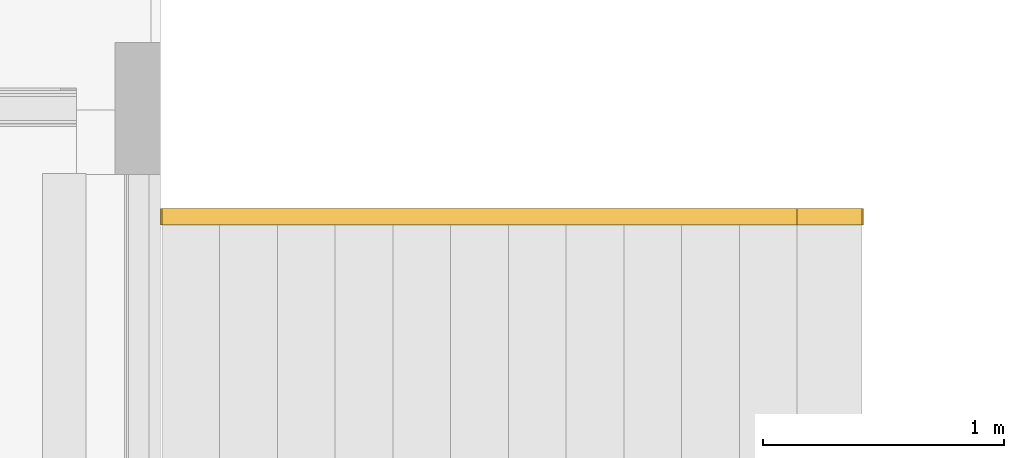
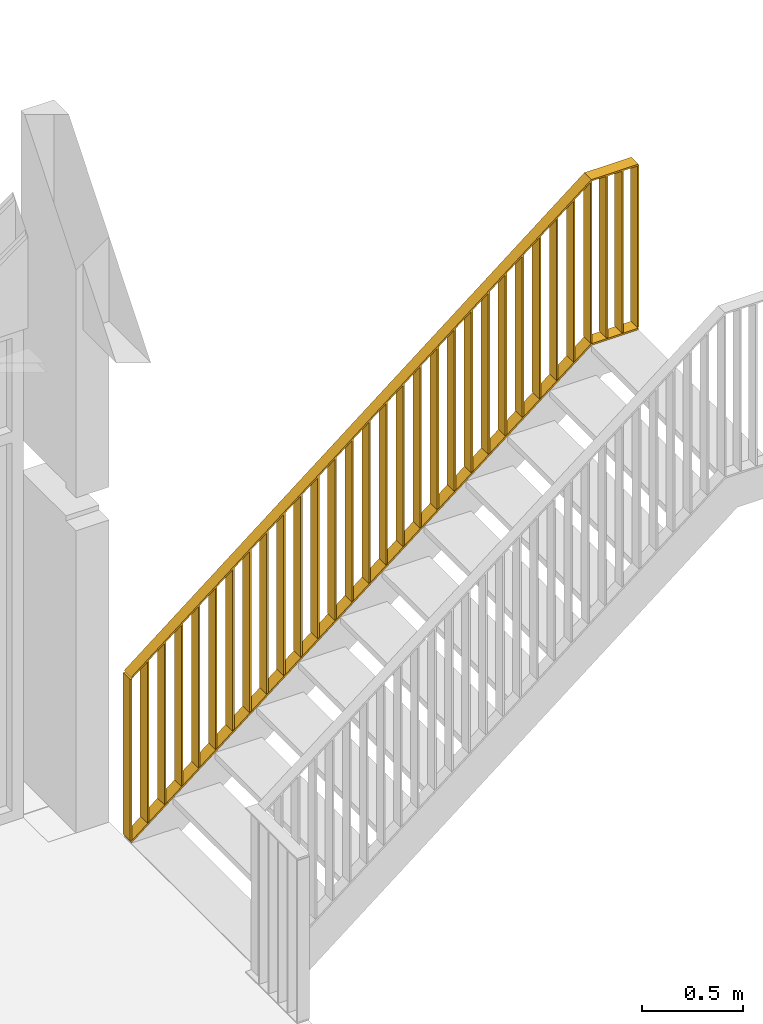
# One storey, part 86 of 94: 1 railing.
"""IFC2X3 building model written with IfcOpenShell, lengths in millimetres."""

from ifc_helpers import new_model, entity, si_unit, converted_unit, derived_unit, money_unit, direction, frame, origin_with_axes, place, context, subcontext, project, spatial, faceted_brep, material, material_list, type_object, element, save


model = new_model("IFC2X3")

# Units and contexts
model_context = context("Model", 3, precision=0.01, world=origin_with_axes(), true_north=direction((0.0, 1.0)))
body_context = subcontext(model_context, "Body", "Model", "MODEL_VIEW")
ifc_project = project(units=[si_unit("LENGTHUNIT", "METRE", prefix="MILLI"), si_unit("AREAUNIT", "SQUARE_METRE"), si_unit("VOLUMEUNIT", "CUBIC_METRE"), converted_unit("PLANEANGLEUNIT", "DEGREE", entity("IfcPlaneAngleMeasure", 0.0174532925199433), si_unit("PLANEANGLEUNIT", "RADIAN"), dimensions=[0, 0, 0, 0, 0, 0, 0]), money_unit("EUR"), converted_unit("TIMEUNIT", "Year", entity("IfcTimeMeasure", 31557600.0), si_unit("TIMEUNIT", "SECOND"), dimensions=[0, 0, 1, 0, 0, 0, 0]), si_unit("MASSUNIT", "GRAM", prefix="KILO"), si_unit("THERMODYNAMICTEMPERATUREUNIT", "DEGREE_CELSIUS"), si_unit("LUMINOUSINTENSITYUNIT", "LUMEN"), si_unit("ENERGYUNIT", "JOULE", prefix="MEGA"), derived_unit("THERMALCONDUCTANCEUNIT", [(si_unit("POWERUNIT", "WATT"), 1), (si_unit("LENGTHUNIT", "METRE"), -1), (si_unit("THERMODYNAMICTEMPERATUREUNIT", "KELVIN"), -1)]), derived_unit("SPECIFICHEATCAPACITYUNIT", [(si_unit("ENERGYUNIT", "JOULE"), 1), (si_unit("MASSUNIT", "GRAM", prefix="KILO"), -1), (si_unit("THERMODYNAMICTEMPERATUREUNIT", "KELVIN"), -1)]), derived_unit("MASSDENSITYUNIT", [(si_unit("MASSUNIT", "GRAM", prefix="KILO"), 1), (si_unit("VOLUMEUNIT", "CUBIC_METRE"), -1)])], contexts=[model_context])

# Site, building, storey
site_placement = place(None, origin_with_axes())
site = spatial("IfcSite", under=ifc_project, at=site_placement, Name="<site naam>", CompositionType="ELEMENT")
building_placement = place(site_placement, origin_with_axes())
building = spatial("IfcBuilding", under=site, at=building_placement, Name="<Naam gebouw>", CompositionType="ELEMENT")
storey_placement = place(building_placement, frame((0.0, 0.0, 4250.0), z_axis=(0.0, 0.0, 1.0), x_axis=(1.0, 0.0, 0.0)))
storey = spatial("IfcBuildingStorey", under=building, at=storey_placement, Name="01 1e verdieping", CompositionType="ELEMENT", Elevation=4250.0)

# Railing
ifc_material = material(Name="staal balustrade")
ifc_material_list = material_list([ifc_material, ifc_material, ifc_material, ifc_material, ifc_material, ifc_material, ifc_material, ifc_material, ifc_material, ifc_material, ifc_material, ifc_material, ifc_material, ifc_material, ifc_material, ifc_material, ifc_material, ifc_material, ifc_material, ifc_material, ifc_material, ifc_material, ifc_material, ifc_material, ifc_material, ifc_material, ifc_material, ifc_material, ifc_material, ifc_material, ifc_material, ifc_material, ifc_material, ifc_material, ifc_material])
railing_type = type_object("IfcRailingType", Name="Railing Type", PredefinedType="NOTDEFINED")
railing_placement = place(storey_placement, frame((53734.6422230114, 10185.00000000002, 0.0), z_axis=(0.0, 0.0, 1.0), x_axis=(1.0, 0.0, 0.0)))
element("IfcRailing", 1, at=railing_placement, inside=storey, type_object=railing_type, material=ifc_material_list, Name="34_Reling_", PredefinedType="NOTDEFINED", context=body_context, shape_type="Brep", body=[
    faceted_brep([(1349.732382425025, 1400.0, 2109.999999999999), (1349.732382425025, 1330.0, 2109.999999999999), (1349.732382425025, 1330.0, 3089.999999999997), (1349.732382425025, 1400.0, 3089.999999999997), (1359.73238242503, 1400.0, 2109.999999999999), (1359.73238242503, 1330.0, 2109.999999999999), (1359.73238242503, 1330.0, 3089.999999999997), (1359.73238242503, 1400.0, 3089.999999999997)], [[[0, 1, 2, 3]], [[0, 4, 5, 1]], [[1, 5, 6, 2]], [[3, 2, 6, 7]], [[4, 0, 3, 7]], [[5, 4, 7, 6]]]),
    faceted_brep([(1079.732382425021, 1400.0, 2109.999999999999), (1079.732382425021, 1330.0, 2109.999999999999), (1079.732382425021, 1330.0, 3089.999999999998), (1079.732382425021, 1400.0, 3089.999999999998), (1089.732382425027, 1400.0, 2109.999999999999), (1089.732382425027, 1330.0, 2109.999999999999), (1089.732382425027, 1330.0, 3089.999999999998), (1089.732382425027, 1400.0, 3089.999999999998)], [[[0, 1, 2, 3]], [[0, 4, 5, 1]], [[1, 5, 6, 2]], [[3, 2, 6, 7]], [[4, 0, 3, 7]], [[5, 4, 7, 6]]]),
    faceted_brep([(-1560.267617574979, 1400.0, 14.99999999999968), (-1560.267617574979, 1330.0, 14.99999999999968), (-1560.267617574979, 1330.0, 994.9999999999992), (-1560.267617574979, 1400.0, 994.9999999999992), (-1550.267617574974, 1400.0, 14.99999999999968), (-1550.267617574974, 1330.0, 14.99999999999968), (-1550.267617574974, 1330.0, 994.9999999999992), (-1550.267617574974, 1400.0, 994.9999999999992)], [[[0, 1, 2, 3]], [[0, 4, 5, 1]], [[1, 5, 6, 2]], [[3, 2, 6, 7]], [[4, 0, 3, 7]], [[5, 4, 7, 6]]]),
    faceted_brep([(1354.732382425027, 1400.0, 3099.999999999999), (1354.732382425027, 1400.0, 3089.999999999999), (1088.218090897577, 1400.0, 3089.999999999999), (1084.732382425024, 1400.0, 3099.999999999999), (1354.732382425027, 1330.0, 3099.999999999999), (1354.732382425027, 1330.0, 3089.999999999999), (1088.218090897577, 1330.0, 3089.999999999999), (1084.732382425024, 1330.0, 3099.999999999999)], [[[0, 1, 2, 3]], [[0, 4, 5, 1]], [[1, 5, 6, 2]], [[3, 2, 6, 7]], [[4, 0, 3, 7]], [[5, 4, 7, 6]]]),
    faceted_brep([(1354.732382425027, 1400.0, 2104.999999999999), (1354.732382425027, 1400.0, 2094.999999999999), (1084.732382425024, 1400.0, 2094.999999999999), (1084.732382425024, 1400.0, 2104.999999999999), (1354.732382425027, 1330.0, 2104.999999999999), (1354.732382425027, 1330.0, 2094.999999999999), (1084.732382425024, 1330.0, 2094.999999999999), (1084.732382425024, 1330.0, 2104.999999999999)], [[[0, 1, 2, 3]], [[0, 4, 5, 1]], [[1, 5, 6, 2]], [[3, 2, 6, 7]], [[4, 0, 3, 7]], [[5, 4, 7, 6]]]),
    faceted_brep([(1259.732382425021, 1400.0, 2109.999999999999), (1259.732382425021, 1330.0, 2109.999999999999), (1259.732382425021, 1330.0, 3089.999999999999), (1259.732382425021, 1400.0, 3089.999999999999), (1269.732382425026, 1400.0, 2109.999999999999), (1269.732382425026, 1330.0, 2109.999999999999), (1269.732382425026, 1330.0, 3089.999999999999), (1269.732382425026, 1400.0, 3089.999999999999)], [[[0, 1, 2, 3]], [[0, 4, 5, 1]], [[1, 5, 6, 2]], [[3, 2, 6, 7]], [[4, 0, 3, 7]], [[5, 4, 7, 6]]]),
    faceted_brep([(1169.732382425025, 1400.0, 2109.999999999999), (1169.732382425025, 1330.0, 2109.999999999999), (1169.732382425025, 1330.0, 3089.999999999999), (1169.732382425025, 1400.0, 3089.999999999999), (1179.73238242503, 1400.0, 2109.999999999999), (1179.73238242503, 1330.0, 2109.999999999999), (1179.73238242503, 1330.0, 3089.999999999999), (1179.73238242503, 1400.0, 3089.999999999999)], [[[0, 1, 2, 3]], [[0, 4, 5, 1]], [[1, 5, 6, 2]], [[3, 2, 6, 7]], [[4, 0, 3, 7]], [[5, 4, 7, 6]]]),
    faceted_brep([(1084.732382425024, 1400.0, 3099.999999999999), (1088.218090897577, 1400.0, 3089.999999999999), (-1549.051472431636, 1400.0, 997.1667669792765), (-1555.267617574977, 1400.0, 1005.0), (1084.732382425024, 1330.0, 3099.999999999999), (1088.218090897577, 1330.0, 3089.999999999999), (-1549.051472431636, 1330.0, 997.1667669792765), (-1555.267617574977, 1330.0, 1005.0)], [[[0, 1, 2, 3]], [[0, 4, 5, 1]], [[1, 5, 6, 2]], [[3, 2, 6, 7]], [[4, 0, 3, 7]], [[5, 4, 7, 6]]]),
    faceted_brep([(1084.732382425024, 1400.0, 2106.383060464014), (1084.732382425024, 1400.0, 2093.616939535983), (-1552.159545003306, 1400.0, 1.083383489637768), (-1558.375690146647, 1400.0, 8.916616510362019), (1084.732382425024, 1330.0, 2106.383060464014), (1084.732382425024, 1330.0, 2093.616939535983), (-1552.159545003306, 1330.0, 1.083383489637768), (-1558.375690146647, 1330.0, 8.916616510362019)], [[[0, 1, 2, 3]], [[0, 4, 5, 1]], [[1, 5, 6, 2]], [[3, 2, 6, 7]], [[4, 0, 3, 7]], [[5, 4, 7, 6]]]),
    faceted_brep([(981.9546046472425, 1400.0, 2028.439604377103), (981.9546046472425, 1330.0, 2028.439604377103), (981.9546046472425, 1330.0, 3008.439604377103), (981.9546046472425, 1400.0, 3008.439604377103), (991.9546046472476, 1400.0, 2036.375210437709), (991.9546046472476, 1330.0, 2036.375210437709), (991.9546046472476, 1330.0, 3016.375210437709), (991.9546046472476, 1400.0, 3016.375210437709)], [[[0, 1, 2, 3]], [[0, 4, 5, 1]], [[1, 5, 6, 2]], [[3, 2, 6, 7]], [[4, 0, 3, 7]], [[5, 4, 7, 6]]]),
    faceted_brep([(884.1768268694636, 1400.0, 1950.847011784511), (884.1768268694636, 1330.0, 1950.847011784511), (884.1768268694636, 1330.0, 2930.847011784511), (884.1768268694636, 1400.0, 2930.847011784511), (894.1768268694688, 1400.0, 1958.782617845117), (894.1768268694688, 1330.0, 1958.782617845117), (894.1768268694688, 1330.0, 2938.782617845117), (894.1768268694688, 1400.0, 2938.782617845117)], [[[0, 1, 2, 3]], [[0, 4, 5, 1]], [[1, 5, 6, 2]], [[3, 2, 6, 7]], [[4, 0, 3, 7]], [[5, 4, 7, 6]]]),
    faceted_brep([(786.3990490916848, 1400.0, 1873.254419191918), (786.3990490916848, 1330.0, 1873.254419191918), (786.3990490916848, 1330.0, 2853.254419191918), (786.3990490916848, 1400.0, 2853.254419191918), (796.3990490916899, 1400.0, 1881.190025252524), (796.3990490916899, 1330.0, 1881.190025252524), (796.3990490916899, 1330.0, 2861.190025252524), (796.3990490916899, 1400.0, 2861.190025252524)], [[[0, 1, 2, 3]], [[0, 4, 5, 1]], [[1, 5, 6, 2]], [[3, 2, 6, 7]], [[4, 0, 3, 7]], [[5, 4, 7, 6]]]),
    faceted_brep([(688.621271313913, 1400.0, 1795.661826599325), (688.621271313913, 1330.0, 1795.661826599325), (688.621271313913, 1330.0, 2775.661826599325), (688.621271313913, 1400.0, 2775.661826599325), (698.6212713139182, 1400.0, 1803.597432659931), (698.6212713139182, 1330.0, 1803.597432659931), (698.6212713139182, 1330.0, 2783.597432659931), (698.6212713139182, 1400.0, 2783.597432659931)], [[[0, 1, 2, 3]], [[0, 4, 5, 1]], [[1, 5, 6, 2]], [[3, 2, 6, 7]], [[4, 0, 3, 7]], [[5, 4, 7, 6]]]),
    faceted_brep([(590.8434935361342, 1400.0, 1718.069234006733), (590.8434935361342, 1330.0, 1718.069234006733), (590.8434935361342, 1330.0, 2698.069234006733), (590.8434935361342, 1400.0, 2698.069234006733), (600.8434935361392, 1400.0, 1726.004840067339), (600.8434935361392, 1330.0, 1726.004840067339), (600.8434935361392, 1330.0, 2706.00484006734), (600.8434935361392, 1400.0, 2706.00484006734)], [[[0, 1, 2, 3]], [[0, 4, 5, 1]], [[1, 5, 6, 2]], [[3, 2, 6, 7]], [[4, 0, 3, 7]], [[5, 4, 7, 6]]]),
    faceted_brep([(493.0657157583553, 1400.0, 1640.47664141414), (493.0657157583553, 1330.0, 1640.47664141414), (493.0657157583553, 1330.0, 2620.47664141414), (493.0657157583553, 1400.0, 2620.47664141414), (503.0657157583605, 1400.0, 1648.412247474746), (503.0657157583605, 1330.0, 1648.412247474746), (503.0657157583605, 1330.0, 2628.412247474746), (503.0657157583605, 1400.0, 2628.412247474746)], [[[0, 1, 2, 3]], [[0, 4, 5, 1]], [[1, 5, 6, 2]], [[3, 2, 6, 7]], [[4, 0, 3, 7]], [[5, 4, 7, 6]]]),
    faceted_brep([(395.2879379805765, 1400.0, 1562.884048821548), (395.2879379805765, 1330.0, 1562.884048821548), (395.2879379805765, 1330.0, 2542.884048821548), (395.2879379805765, 1400.0, 2542.884048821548), (405.2879379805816, 1400.0, 1570.819654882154), (405.2879379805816, 1330.0, 1570.819654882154), (405.2879379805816, 1330.0, 2550.819654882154), (405.2879379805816, 1400.0, 2550.819654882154)], [[[0, 1, 2, 3]], [[0, 4, 5, 1]], [[1, 5, 6, 2]], [[3, 2, 6, 7]], [[4, 0, 3, 7]], [[5, 4, 7, 6]]]),
    faceted_brep([(297.5101602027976, 1400.0, 1485.291456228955), (297.5101602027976, 1330.0, 1485.291456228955), (297.5101602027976, 1330.0, 2465.291456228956), (297.5101602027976, 1400.0, 2465.291456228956), (307.5101602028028, 1400.0, 1493.227062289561), (307.5101602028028, 1330.0, 1493.227062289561), (307.5101602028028, 1330.0, 2473.227062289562), (307.5101602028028, 1400.0, 2473.227062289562)], [[[0, 1, 2, 3]], [[0, 4, 5, 1]], [[1, 5, 6, 2]], [[3, 2, 6, 7]], [[4, 0, 3, 7]], [[5, 4, 7, 6]]]),
    faceted_brep([(199.7323824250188, 1400.0, 1407.698863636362), (199.7323824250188, 1330.0, 1407.698863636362), (199.7323824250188, 1330.0, 2387.698863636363), (199.7323824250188, 1400.0, 2387.698863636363), (209.7323824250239, 1400.0, 1415.634469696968), (209.7323824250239, 1330.0, 1415.634469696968), (209.7323824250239, 1330.0, 2395.634469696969), (209.7323824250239, 1400.0, 2395.634469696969)], [[[0, 1, 2, 3]], [[0, 4, 5, 1]], [[1, 5, 6, 2]], [[3, 2, 6, 7]], [[4, 0, 3, 7]], [[5, 4, 7, 6]]]),
    faceted_brep([(101.954604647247, 1400.0, 1330.10627104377), (101.954604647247, 1330.0, 1330.10627104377), (101.954604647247, 1330.0, 2310.106271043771), (101.954604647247, 1400.0, 2310.106271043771), (111.9546046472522, 1400.0, 1338.041877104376), (111.9546046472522, 1330.0, 1338.041877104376), (111.9546046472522, 1330.0, 2318.041877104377), (111.9546046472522, 1400.0, 2318.041877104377)], [[[0, 1, 2, 3]], [[0, 4, 5, 1]], [[1, 5, 6, 2]], [[3, 2, 6, 7]], [[4, 0, 3, 7]], [[5, 4, 7, 6]]]),
    faceted_brep([(4.176826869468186, 1400.0, 1252.513678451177), (4.176826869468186, 1330.0, 1252.513678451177), (4.176826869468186, 1330.0, 2232.513678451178), (4.176826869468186, 1400.0, 2232.513678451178), (14.1768268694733, 1400.0, 1260.449284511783), (14.1768268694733, 1330.0, 1260.449284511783), (14.1768268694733, 1330.0, 2240.449284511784), (14.1768268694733, 1400.0, 2240.449284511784)], [[[0, 1, 2, 3]], [[0, 4, 5, 1]], [[1, 5, 6, 2]], [[3, 2, 6, 7]], [[4, 0, 3, 7]], [[5, 4, 7, 6]]]),
    faceted_brep([(-93.60095090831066, 1400.0, 1174.921085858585), (-93.60095090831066, 1330.0, 1174.921085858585), (-93.60095090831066, 1330.0, 2154.921085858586), (-93.60095090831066, 1400.0, 2154.921085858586), (-83.60095090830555, 1400.0, 1182.856691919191), (-83.60095090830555, 1330.0, 1182.856691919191), (-83.60095090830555, 1330.0, 2162.856691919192), (-83.60095090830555, 1400.0, 2162.856691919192)], [[[0, 1, 2, 3]], [[0, 4, 5, 1]], [[1, 5, 6, 2]], [[3, 2, 6, 7]], [[4, 0, 3, 7]], [[5, 4, 7, 6]]]),
    faceted_brep([(-191.3787286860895, 1400.0, 1097.328493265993), (-191.3787286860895, 1330.0, 1097.328493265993), (-191.3787286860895, 1330.0, 2077.328493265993), (-191.3787286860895, 1400.0, 2077.328493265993), (-181.3787286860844, 1400.0, 1105.264099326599), (-181.3787286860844, 1330.0, 1105.264099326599), (-181.3787286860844, 1330.0, 2085.264099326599), (-181.3787286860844, 1400.0, 2085.264099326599)], [[[0, 1, 2, 3]], [[0, 4, 5, 1]], [[1, 5, 6, 2]], [[3, 2, 6, 7]], [[4, 0, 3, 7]], [[5, 4, 7, 6]]]),
    faceted_brep([(-289.1565064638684, 1400.0, 1019.7359006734), (-289.1565064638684, 1330.0, 1019.7359006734), (-289.1565064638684, 1330.0, 1999.7359006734), (-289.1565064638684, 1400.0, 1999.7359006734), (-279.1565064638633, 1400.0, 1027.671506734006), (-279.1565064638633, 1330.0, 1027.671506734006), (-279.1565064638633, 1330.0, 2007.671506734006), (-279.1565064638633, 1400.0, 2007.671506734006)], [[[0, 1, 2, 3]], [[0, 4, 5, 1]], [[1, 5, 6, 2]], [[3, 2, 6, 7]], [[4, 0, 3, 7]], [[5, 4, 7, 6]]]),
    faceted_brep([(-386.9342842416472, 1400.0, 942.1433080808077), (-386.9342842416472, 1330.0, 942.1433080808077), (-386.9342842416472, 1330.0, 1922.143308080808), (-386.9342842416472, 1400.0, 1922.143308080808), (-376.9342842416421, 1400.0, 950.0789141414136), (-376.9342842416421, 1330.0, 950.0789141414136), (-376.9342842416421, 1330.0, 1930.078914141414), (-376.9342842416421, 1400.0, 1930.078914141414)], [[[0, 1, 2, 3]], [[0, 4, 5, 1]], [[1, 5, 6, 2]], [[3, 2, 6, 7]], [[4, 0, 3, 7]], [[5, 4, 7, 6]]]),
    faceted_brep([(-484.7120620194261, 1400.0, 864.5507154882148), (-484.7120620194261, 1330.0, 864.5507154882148), (-484.7120620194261, 1330.0, 1844.550715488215), (-484.7120620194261, 1400.0, 1844.550715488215), (-474.712062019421, 1400.0, 872.4863215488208), (-474.712062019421, 1330.0, 872.4863215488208), (-474.712062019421, 1330.0, 1852.486321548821), (-474.712062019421, 1400.0, 1852.486321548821)], [[[0, 1, 2, 3]], [[0, 4, 5, 1]], [[1, 5, 6, 2]], [[3, 2, 6, 7]], [[4, 0, 3, 7]], [[5, 4, 7, 6]]]),
    faceted_brep([(-582.4898397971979, 1400.0, 786.9581228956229), (-582.4898397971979, 1330.0, 786.9581228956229), (-582.4898397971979, 1330.0, 1766.958122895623), (-582.4898397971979, 1400.0, 1766.958122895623), (-572.4898397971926, 1400.0, 794.8937289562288), (-572.4898397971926, 1330.0, 794.8937289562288), (-572.4898397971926, 1330.0, 1774.893728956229), (-572.4898397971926, 1400.0, 1774.893728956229)], [[[0, 1, 2, 3]], [[0, 4, 5, 1]], [[1, 5, 6, 2]], [[3, 2, 6, 7]], [[4, 0, 3, 7]], [[5, 4, 7, 6]]]),
    faceted_brep([(-680.2676175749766, 1400.0, 709.3655303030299), (-680.2676175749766, 1330.0, 709.3655303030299), (-680.2676175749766, 1330.0, 1689.36553030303), (-680.2676175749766, 1400.0, 1689.36553030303), (-670.2676175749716, 1400.0, 717.3011363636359), (-670.2676175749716, 1330.0, 717.3011363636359), (-670.2676175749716, 1330.0, 1697.301136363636), (-670.2676175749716, 1400.0, 1697.301136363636)], [[[0, 1, 2, 3]], [[0, 4, 5, 1]], [[1, 5, 6, 2]], [[3, 2, 6, 7]], [[4, 0, 3, 7]], [[5, 4, 7, 6]]]),
    faceted_brep([(-778.0453953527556, 1400.0, 631.7729377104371), (-778.0453953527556, 1330.0, 631.7729377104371), (-778.0453953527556, 1330.0, 1611.772937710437), (-778.0453953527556, 1400.0, 1611.772937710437), (-768.0453953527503, 1400.0, 639.708543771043), (-768.0453953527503, 1330.0, 639.708543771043), (-768.0453953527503, 1330.0, 1619.708543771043), (-768.0453953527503, 1400.0, 1619.708543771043)], [[[0, 1, 2, 3]], [[0, 4, 5, 1]], [[1, 5, 6, 2]], [[3, 2, 6, 7]], [[4, 0, 3, 7]], [[5, 4, 7, 6]]]),
    faceted_brep([(-875.8231731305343, 1400.0, 554.180345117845), (-875.8231731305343, 1330.0, 554.180345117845), (-875.8231731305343, 1330.0, 1534.180345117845), (-875.8231731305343, 1400.0, 1534.180345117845), (-865.8231731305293, 1400.0, 562.115951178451), (-865.8231731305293, 1330.0, 562.115951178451), (-865.8231731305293, 1330.0, 1542.115951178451), (-865.8231731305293, 1400.0, 1542.115951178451)], [[[0, 1, 2, 3]], [[0, 4, 5, 1]], [[1, 5, 6, 2]], [[3, 2, 6, 7]], [[4, 0, 3, 7]], [[5, 4, 7, 6]]]),
    faceted_brep([(-973.6009509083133, 1400.0, 476.5877525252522), (-973.6009509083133, 1330.0, 476.5877525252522), (-973.6009509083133, 1330.0, 1456.587752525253), (-973.6009509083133, 1400.0, 1456.587752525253), (-963.600950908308, 1400.0, 484.5233585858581), (-963.600950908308, 1330.0, 484.5233585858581), (-963.600950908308, 1330.0, 1464.523358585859), (-963.600950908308, 1400.0, 1464.523358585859)], [[[0, 1, 2, 3]], [[0, 4, 5, 1]], [[1, 5, 6, 2]], [[3, 2, 6, 7]], [[4, 0, 3, 7]], [[5, 4, 7, 6]]]),
    faceted_brep([(-1071.378728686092, 1400.0, 398.9951599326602), (-1071.378728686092, 1330.0, 398.9951599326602), (-1071.378728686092, 1330.0, 1378.995159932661), (-1071.378728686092, 1400.0, 1378.995159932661), (-1061.378728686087, 1400.0, 406.9307659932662), (-1061.378728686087, 1330.0, 406.9307659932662), (-1061.378728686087, 1330.0, 1386.930765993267), (-1061.378728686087, 1400.0, 1386.930765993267)], [[[0, 1, 2, 3]], [[0, 4, 5, 1]], [[1, 5, 6, 2]], [[3, 2, 6, 7]], [[4, 0, 3, 7]], [[5, 4, 7, 6]]]),
    faceted_brep([(-1169.156506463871, 1400.0, 321.4025673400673), (-1169.156506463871, 1330.0, 321.4025673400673), (-1169.156506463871, 1330.0, 1301.402567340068), (-1169.156506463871, 1400.0, 1301.402567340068), (-1159.156506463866, 1400.0, 329.3381734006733), (-1159.156506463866, 1330.0, 329.3381734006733), (-1159.156506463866, 1330.0, 1309.338173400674), (-1159.156506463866, 1400.0, 1309.338173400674)], [[[0, 1, 2, 3]], [[0, 4, 5, 1]], [[1, 5, 6, 2]], [[3, 2, 6, 7]], [[4, 0, 3, 7]], [[5, 4, 7, 6]]]),
    faceted_brep([(-1266.934284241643, 1400.0, 243.8099747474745), (-1266.934284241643, 1330.0, 243.8099747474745), (-1266.934284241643, 1330.0, 1223.809974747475), (-1266.934284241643, 1400.0, 1223.809974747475), (-1256.934284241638, 1400.0, 251.7455808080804), (-1256.934284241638, 1330.0, 251.7455808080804), (-1256.934284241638, 1330.0, 1231.745580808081), (-1256.934284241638, 1400.0, 1231.745580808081)], [[[0, 1, 2, 3]], [[0, 4, 5, 1]], [[1, 5, 6, 2]], [[3, 2, 6, 7]], [[4, 0, 3, 7]], [[5, 4, 7, 6]]]),
    faceted_brep([(-1364.712062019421, 1400.0, 166.2173821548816), (-1364.712062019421, 1330.0, 166.2173821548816), (-1364.712062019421, 1330.0, 1146.217382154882), (-1364.712062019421, 1400.0, 1146.217382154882), (-1354.712062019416, 1400.0, 174.1529882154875), (-1354.712062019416, 1330.0, 174.1529882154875), (-1354.712062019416, 1330.0, 1154.152988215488), (-1354.712062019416, 1400.0, 1154.152988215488)], [[[0, 1, 2, 3]], [[0, 4, 5, 1]], [[1, 5, 6, 2]], [[3, 2, 6, 7]], [[4, 0, 3, 7]], [[5, 4, 7, 6]]]),
    faceted_brep([(-1462.4898397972, 1400.0, 88.6247895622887), (-1462.4898397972, 1330.0, 88.6247895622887), (-1462.4898397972, 1330.0, 1068.624789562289), (-1462.4898397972, 1400.0, 1068.624789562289), (-1452.489839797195, 1400.0, 96.56039562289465), (-1452.489839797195, 1330.0, 96.56039562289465), (-1452.489839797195, 1330.0, 1076.560395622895), (-1452.489839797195, 1400.0, 1076.560395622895)], [[[0, 1, 2, 3]], [[0, 4, 5, 1]], [[1, 5, 6, 2]], [[3, 2, 6, 7]], [[4, 0, 3, 7]], [[5, 4, 7, 6]]]),
])

save(model, "model.ifc")
